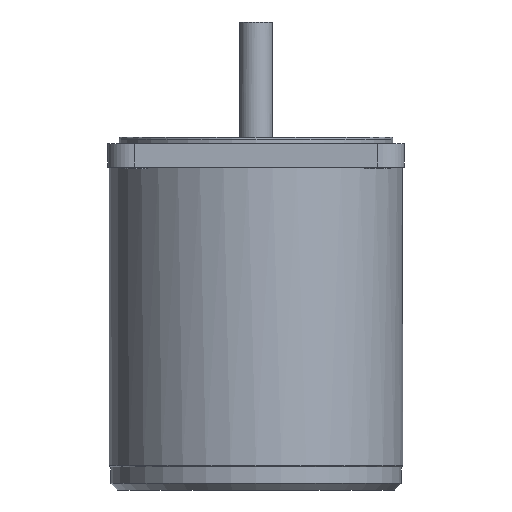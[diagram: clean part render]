
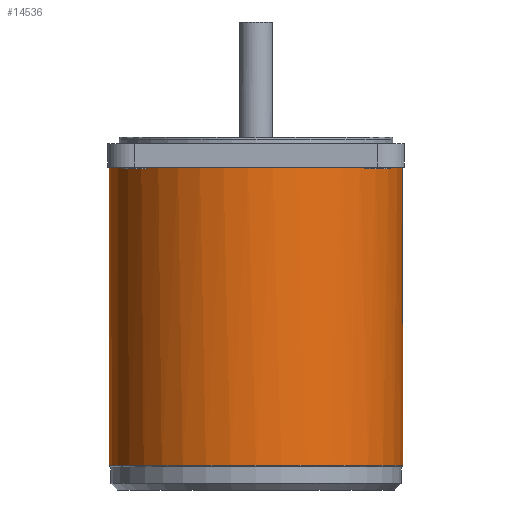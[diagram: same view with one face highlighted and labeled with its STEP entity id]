
A CAD part, front view. The second image highlights one B-rep face of the part: STEP entity #14536.
In plain terms, the highlighted cylindrical face has radius 44.5 mm (diameter 89 mm), a full revolution.
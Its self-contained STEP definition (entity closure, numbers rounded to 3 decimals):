
#14228=CARTESIAN_POINT('',(-26.7,35.6,36.0));
#14229=VERTEX_POINT('',#14228);
#14230=CARTESIAN_POINT('',(-27.689,34.836,37.));
#14231=VERTEX_POINT('',#14230);
#14232=CARTESIAN_POINT('',(-26.7,35.6,36.));
#14233=CARTESIAN_POINT('',(-26.967,35.399,36.));
#14234=CARTESIAN_POINT('',(-27.34,35.112,36.15));
#14235=CARTESIAN_POINT('',(-27.639,34.876,36.619));
#14236=CARTESIAN_POINT('',(-27.689,34.836,36.873));
#14237=CARTESIAN_POINT('',(-27.689,34.836,37.));
#14238=B_SPLINE_CURVE_WITH_KNOTS('',3,(#14232,#14233,#14234,#14235,#14236,#14237),.UNSPECIFIED.,.F.,.U.,(4,1,1,4),(-0.177,-0.076,-0.038,0.),.UNSPECIFIED.);
#14239=EDGE_CURVE('',#14229,#14231,#14238,.T.);
#14278=CARTESIAN_POINT('',(-27.689,34.836,98.0));
#14279=VERTEX_POINT('',#14278);
#14294=CARTESIAN_POINT('',(-27.689,34.836,37.));
#14295=DIRECTION('',(0.0,0.0,1.0));
#14296=VECTOR('',#14295,61.);
#14297=LINE('',#14294,#14296);
#14298=EDGE_CURVE('',#14231,#14279,#14297,.T.);
#14379=CARTESIAN_POINT('',(27.689,34.836,37.));
#14380=VERTEX_POINT('',#14379);
#14388=CARTESIAN_POINT('',(26.7,35.6,36.0));
#14389=VERTEX_POINT('',#14388);
#14390=CARTESIAN_POINT('',(27.689,34.836,37.));
#14391=CARTESIAN_POINT('',(27.689,34.836,36.831));
#14392=CARTESIAN_POINT('',(27.598,34.909,36.497));
#14393=CARTESIAN_POINT('',(27.236,35.193,36.102));
#14394=CARTESIAN_POINT('',(26.9,35.45,36.));
#14395=CARTESIAN_POINT('',(26.7,35.6,36.));
#14396=B_SPLINE_CURVE_WITH_KNOTS('',3,(#14390,#14391,#14392,#14393,#14394,#14395),.UNSPECIFIED.,.F.,.U.,(4,1,1,4),(-0.177,-0.127,-0.076,0.0),.UNSPECIFIED.);
#14397=EDGE_CURVE('',#14380,#14389,#14396,.T.);
#14414=CARTESIAN_POINT('',(27.689,34.836,98.0));
#14415=VERTEX_POINT('',#14414);
#14425=CARTESIAN_POINT('',(27.689,34.836,98.0));
#14426=DIRECTION('',(0.0,0.0,-1.0));
#14427=VECTOR('',#14426,61.);
#14428=LINE('',#14425,#14427);
#14429=EDGE_CURVE('',#14415,#14380,#14428,.T.);
#14447=CARTESIAN_POINT('',(0.0,0.0,36.0));
#14448=DIRECTION('',(0.0,0.0,1.0));
#14449=DIRECTION('',(0.0,1.0,0.0));
#14450=AXIS2_PLACEMENT_3D('',#14447,#14448,#14449);
#14451=CIRCLE('',#14450,44.5);
#14452=EDGE_CURVE('',#14389,#14229,#14451,.T.);
#14506=CARTESIAN_POINT('',(0.0,0.0,0.0));
#14507=DIRECTION('',(0.0,0.0,1.0));
#14508=DIRECTION('',(-1.0,0.0,0.0));
#14509=AXIS2_PLACEMENT_3D('',#14506,#14507,#14508);
#14510=CYLINDRICAL_SURFACE('',#14509,44.5);
#14511=CARTESIAN_POINT('',(-44.5,0.,7.5));
#14512=VERTEX_POINT('',#14511);
#14513=CARTESIAN_POINT('',(0.0,0.0,7.5));
#14514=DIRECTION('',(0.0,0.0,-1.0));
#14515=DIRECTION('',(1.0,0.0,0.0));
#14516=AXIS2_PLACEMENT_3D('',#14513,#14514,#14515);
#14517=CIRCLE('',#14516,44.5);
#14518=EDGE_CURVE('',#14512,#14512,#14517,.T.);
#14519=ORIENTED_EDGE('',*,*,#14518,.F.);
#14520=EDGE_LOOP('',(#14519));
#14521=FACE_OUTER_BOUND('',#14520,.T.);
#14522=ORIENTED_EDGE('',*,*,#14298,.F.);
#14523=ORIENTED_EDGE('',*,*,#14239,.F.);
#14524=ORIENTED_EDGE('',*,*,#14452,.F.);
#14525=ORIENTED_EDGE('',*,*,#14397,.F.);
#14526=ORIENTED_EDGE('',*,*,#14429,.F.);
#14527=CARTESIAN_POINT('',(0.0,0.0,98.0));
#14528=DIRECTION('',(0.0,0.0,-1.0));
#14529=DIRECTION('',(-1.0,0.0,0.0));
#14530=AXIS2_PLACEMENT_3D('',#14527,#14528,#14529);
#14531=CIRCLE('',#14530,44.5);
#14532=EDGE_CURVE('',#14415,#14279,#14531,.T.);
#14533=ORIENTED_EDGE('',*,*,#14532,.T.);
#14534=EDGE_LOOP('',(#14522,#14523,#14524,#14525,#14526,#14533));
#14535=FACE_BOUND('',#14534,.T.);
#14536=ADVANCED_FACE('',(#14521,#14535),#14510,.T.);
